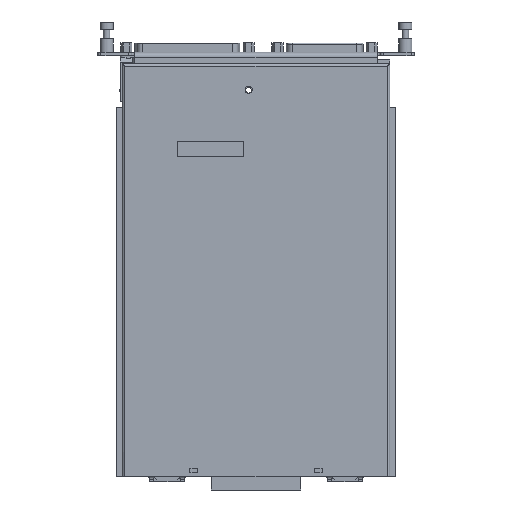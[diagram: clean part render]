
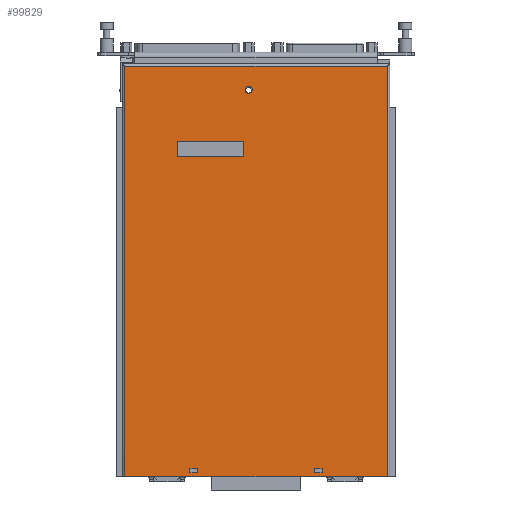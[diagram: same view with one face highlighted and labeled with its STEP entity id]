
A CAD part, front view. The second image highlights one B-rep face of the part: STEP entity #99829.
In plain terms, the highlighted planar face has unit normal (0, -1, 0).
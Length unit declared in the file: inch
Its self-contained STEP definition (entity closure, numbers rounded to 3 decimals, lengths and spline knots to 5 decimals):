
#96591=DIRECTION('',(0.,0.,-1.));
#96592=VECTOR('',#96591,0.0793);
#96593=CARTESIAN_POINT('',(-1.3,0.,-4.55));
#96594=LINE('',#96593,#96592);
#96598=DIRECTION('',(1.,0.,0.));
#96599=VECTOR('',#96598,0.15);
#96600=CARTESIAN_POINT('',(-1.3,0.,-4.6293));
#96601=LINE('',#96600,#96599);
#96605=DIRECTION('',(0.,0.,1.));
#96606=VECTOR('',#96605,0.0793);
#96607=CARTESIAN_POINT('',(-1.15,0.,-4.6293));
#96608=LINE('',#96607,#96606);
#96612=DIRECTION('',(-1.,0.,0.));
#96613=VECTOR('',#96612,0.15);
#96614=CARTESIAN_POINT('',(-1.15,0.,-4.55));
#96615=LINE('',#96614,#96613);
#96619=DIRECTION('',(0.,0.,-1.));
#96620=VECTOR('',#96619,0.0793);
#96621=CARTESIAN_POINT('',(1.15,0.,-4.55));
#96622=LINE('',#96621,#96620);
#96626=DIRECTION('',(1.,0.,0.));
#96627=VECTOR('',#96626,0.15);
#96628=CARTESIAN_POINT('',(1.15,0.,-4.6293));
#96629=LINE('',#96628,#96627);
#96633=DIRECTION('',(0.,0.,1.));
#96634=VECTOR('',#96633,0.0793);
#96635=CARTESIAN_POINT('',(1.3,0.,-4.6293));
#96636=LINE('',#96635,#96634);
#96640=DIRECTION('',(-1.,0.,0.));
#96641=VECTOR('',#96640,0.15);
#96642=CARTESIAN_POINT('',(1.3,0.,-4.55));
#96643=LINE('',#96642,#96641);
#96647=DIRECTION('',(-1.,0.,0.));
#96648=VECTOR('',#96647,5.15811);
#96649=CARTESIAN_POINT('',(2.57906,0.,-4.70862));
#96650=LINE('',#96649,#96648);
#96654=CARTESIAN_POINT('',(-0.144,0.,2.9));
#96655=DIRECTION('',(0.,1.,0.));
#96656=DIRECTION('',(0.,0.,-1.));
#96657=AXIS2_PLACEMENT_3D('',#96654,#96655,#96656);
#96662=CARTESIAN_POINT('',(-0.144,0.,2.9));
#96663=DIRECTION('',(0.,1.,0.));
#96664=DIRECTION('',(0.,0.,1.));
#96665=AXIS2_PLACEMENT_3D('',#96662,#96663,#96664);
#96670=DIRECTION('',(0.,0.,-1.));
#96671=VECTOR('',#96670,0.3);
#96672=CARTESIAN_POINT('',(-1.55,0.,1.89138));
#96673=LINE('',#96672,#96671);
#96677=DIRECTION('',(1.,0.,0.));
#96678=VECTOR('',#96677,1.3);
#96679=CARTESIAN_POINT('',(-1.55,0.,1.59138));
#96680=LINE('',#96679,#96678);
#96684=DIRECTION('',(0.,0.,1.));
#96685=VECTOR('',#96684,0.3);
#96686=CARTESIAN_POINT('',(-0.25,0.,1.59138));
#96687=LINE('',#96686,#96685);
#96691=DIRECTION('',(-1.,0.,0.));
#96692=VECTOR('',#96691,1.3);
#96693=CARTESIAN_POINT('',(-0.25,0.,1.89138));
#96694=LINE('',#96693,#96692);
#98701=CARTESIAN_POINT('',(2.57906,0.,-4.70862));
#98706=DIRECTION('',(0.,0.,-1.));
#98707=VECTOR('',#98706,8.06906);
#98708=CARTESIAN_POINT('',(2.57906,0.,3.36043));
#98709=LINE('',#98708,#98707);
#98733=DIRECTION('',(1.,0.,0.));
#98734=VECTOR('',#98733,5.15811);
#98735=CARTESIAN_POINT('',(-2.57906,0.,3.36043));
#98736=LINE('',#98735,#98734);
#98795=DIRECTION('',(0.,0.,-1.));
#98796=VECTOR('',#98795,8.06906);
#98797=CARTESIAN_POINT('',(-2.57906,0.,3.36043));
#98798=LINE('',#98797,#98796);
#99397=CARTESIAN_POINT('',(-1.15,0.,-4.55));
#99398=CARTESIAN_POINT('',(-1.3,0.,-4.55));
#99399=VERTEX_POINT('',#99397);
#99400=VERTEX_POINT('',#99398);
#99401=CARTESIAN_POINT('',(1.3,0.,-4.55));
#99402=CARTESIAN_POINT('',(1.15,0.,-4.55));
#99403=VERTEX_POINT('',#99401);
#99404=VERTEX_POINT('',#99402);
#99437=CARTESIAN_POINT('',(-1.3,0.,-4.6293));
#99438=VERTEX_POINT('',#99437);
#99439=CARTESIAN_POINT('',(-1.15,0.,-4.6293));
#99440=VERTEX_POINT('',#99439);
#99441=CARTESIAN_POINT('',(1.15,0.,-4.6293));
#99442=VERTEX_POINT('',#99441);
#99443=CARTESIAN_POINT('',(1.3,0.,-4.6293));
#99444=VERTEX_POINT('',#99443);
#99560=VERTEX_POINT('',#98701);
#99561=CARTESIAN_POINT('',(2.57906,0.,3.36043));
#99562=VERTEX_POINT('',#99561);
#99563=CARTESIAN_POINT('',(-2.57906,0.,3.36043));
#99564=CARTESIAN_POINT('',(-2.57906,0.,-4.70862));
#99565=VERTEX_POINT('',#99563);
#99566=VERTEX_POINT('',#99564);
#99590=CARTESIAN_POINT('',(-0.144,0.,2.829));
#99591=CARTESIAN_POINT('',(-0.144,0.,2.971));
#99592=VERTEX_POINT('',#99590);
#99593=VERTEX_POINT('',#99591);
#99642=CARTESIAN_POINT('',(-1.55,0.,1.89138));
#99643=CARTESIAN_POINT('',(-1.55,0.,1.59138));
#99644=VERTEX_POINT('',#99642);
#99645=VERTEX_POINT('',#99643);
#99646=CARTESIAN_POINT('',(-0.25,0.,1.59138));
#99647=VERTEX_POINT('',#99646);
#99648=CARTESIAN_POINT('',(-0.25,0.,1.89138));
#99649=VERTEX_POINT('',#99648);
#99778=CARTESIAN_POINT('',(0.,0.,0.));
#99779=DIRECTION('',(0.,1.,0.));
#99780=DIRECTION('',(1.,0.,0.));
#99781=AXIS2_PLACEMENT_3D('',#99778,#99779,#99780);
#99782=PLANE('',#99781);
#99784=ORIENTED_EDGE('',*,*,#99783,.T.);
#99786=ORIENTED_EDGE('',*,*,#99785,.T.);
#99788=ORIENTED_EDGE('',*,*,#99787,.F.);
#99790=ORIENTED_EDGE('',*,*,#99789,.T.);
#99791=EDGE_LOOP('',(#99784,#99786,#99788,#99790));
#99792=FACE_OUTER_BOUND('',#99791,.F.);
#99794=ORIENTED_EDGE('',*,*,#99793,.T.);
#99796=ORIENTED_EDGE('',*,*,#99795,.T.);
#99798=ORIENTED_EDGE('',*,*,#99797,.T.);
#99800=ORIENTED_EDGE('',*,*,#99799,.T.);
#99801=EDGE_LOOP('',(#99794,#99796,#99798,#99800));
#99802=FACE_BOUND('',#99801,.F.);
#99804=ORIENTED_EDGE('',*,*,#99803,.T.);
#99806=ORIENTED_EDGE('',*,*,#99805,.T.);
#99808=ORIENTED_EDGE('',*,*,#99807,.T.);
#99810=ORIENTED_EDGE('',*,*,#99809,.T.);
#99811=EDGE_LOOP('',(#99804,#99806,#99808,#99810));
#99812=FACE_BOUND('',#99811,.F.);
#99814=ORIENTED_EDGE('',*,*,#99813,.F.);
#99816=ORIENTED_EDGE('',*,*,#99815,.F.);
#99817=EDGE_LOOP('',(#99814,#99816));
#99818=FACE_BOUND('',#99817,.F.);
#99820=ORIENTED_EDGE('',*,*,#99819,.T.);
#99822=ORIENTED_EDGE('',*,*,#99821,.T.);
#99824=ORIENTED_EDGE('',*,*,#99823,.T.);
#99826=ORIENTED_EDGE('',*,*,#99825,.T.);
#99827=EDGE_LOOP('',(#99820,#99822,#99824,#99826));
#99828=FACE_BOUND('',#99827,.F.);
#96658=CIRCLE('',#96657,0.071);
#96666=CIRCLE('',#96665,0.071);
#99783=EDGE_CURVE('',#99562,#99560,#98709,.T.);
#99785=EDGE_CURVE('',#99560,#99566,#96650,.T.);
#99787=EDGE_CURVE('',#99565,#99566,#98798,.T.);
#99789=EDGE_CURVE('',#99565,#99562,#98736,.T.);
#99793=EDGE_CURVE('',#99404,#99442,#96622,.T.);
#99795=EDGE_CURVE('',#99442,#99444,#96629,.T.);
#99797=EDGE_CURVE('',#99444,#99403,#96636,.T.);
#99799=EDGE_CURVE('',#99403,#99404,#96643,.T.);
#99803=EDGE_CURVE('',#99400,#99438,#96594,.T.);
#99805=EDGE_CURVE('',#99438,#99440,#96601,.T.);
#99807=EDGE_CURVE('',#99440,#99399,#96608,.T.);
#99809=EDGE_CURVE('',#99399,#99400,#96615,.T.);
#99813=EDGE_CURVE('',#99592,#99593,#96658,.T.);
#99815=EDGE_CURVE('',#99593,#99592,#96666,.T.);
#99819=EDGE_CURVE('',#99644,#99645,#96673,.T.);
#99821=EDGE_CURVE('',#99645,#99647,#96680,.T.);
#99823=EDGE_CURVE('',#99647,#99649,#96687,.T.);
#99825=EDGE_CURVE('',#99649,#99644,#96694,.T.);
#99829=ADVANCED_FACE('',(#99792,#99802,#99812,#99818,#99828),#99782,.F.);
